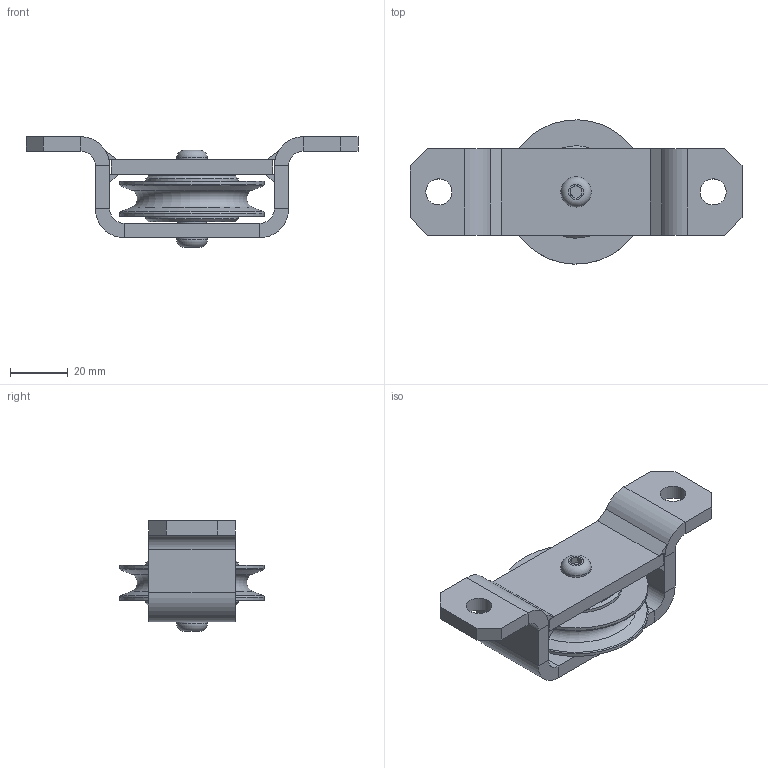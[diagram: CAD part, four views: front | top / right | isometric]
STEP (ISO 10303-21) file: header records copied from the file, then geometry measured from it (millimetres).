
FILE_DESCRIPTION(/* description */ ('Seilrolle ø50 Seitenbefestigung VA Gleitlager'),/* implementation_level */ '2;1');
FILE_NAME(/* name */ 'Z:\Workspace\03 Seilrollen\1.505 Seilrollen Seitenbefestigung VA Gleitlager\1.505.01 Seilrolle ø50 Seitenbefestigung VA Gleitlager\1.505.01 Seilrolle ø50 Seitenbefestigung VA Gleitlager.stp',/* time_stamp */ '2021-11-02T11:20:31+01:00',/* author */ ('cad-user'),/* organization */ (''),/* preprocessor_version */ 'ST-DEVELOPER v18',/* originating_system */ 'Autodesk Inventor 2020',/* authorisation */ '');
FILE_SCHEMA (('AUTOMOTIVE_DESIGN { 1 0 10303 214 3 1 1 }'));
Length unit declared in the file: millimetre
Products named in the file (10): 1.505.01 Seilrolle ø50 Seitenbefestigung VA Gleitla
ger; 1.505.01.00 Seitenbefestigung SR ø50 VA; 1.505.01.00 Seitenbefestigung SR ø50 VA_1; 1.505.01.01 Blech 1 VA; 1.505.01.02 Blech 2 VA; 1.501.01 Seilrolle ø50 VA Buchse komplett; 1.501.01 Seilrolle ø50 VA Buchse; 101316BP25; 1.405.01.02 Achse; ISO 7380 - M6 x 12
Assembly tree (10 placements, depth 3):
  1.505.01 Seilrolle ø50 Seitenbefestigung VA Gleitla
ger
    1.505.01.00 Seitenbefestigung SR ø50 VA
      1.505.01.00 Seitenbefestigung SR ø50 VA_1
      1.505.01.01 Blech 1 VA
      1.505.01.02 Blech 2 VA
    1.501.01 Seilrolle ø50 VA Buchse komplett
      1.501.01 Seilrolle ø50 VA Buchse
      101316BP25
    1.405.01.02 Achse
    ISO 7380 - M6 x 12  x2
Bounding box: 115 x 49.98 x 38.3 mm (x, y, z)
Volume: 53857.3 mm3; surface area: 27390.6 mm2
Topology: 11 solids, 11 shells, 130 faces, 307 edges, 203 vertices
Faces by surface type: plane 84, cylinder 27, cone 12, torus 7
Full cylindrical faces by diameter (mm): 4.917 x1, 6 x2, 7 x2, 9 x2, 10 x2, 10.5 x2, 13 x2, 32 x2, 50 x2
Entity records: 3689 total; most frequent: DIRECTION 633, CARTESIAN_POINT 588, ORIENTED_EDGE 530, EDGE_CURVE 265, AXIS2_PLACEMENT_3D 240, VERTEX_POINT 174, LINE 153, VECTOR 153
